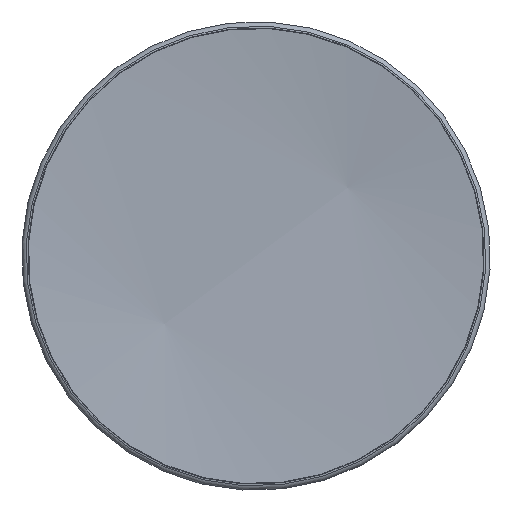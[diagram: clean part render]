
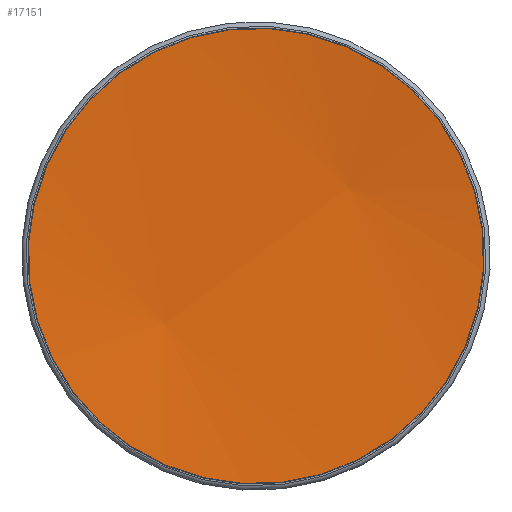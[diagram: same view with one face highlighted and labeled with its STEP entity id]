
A CAD part, front view. The second image highlights one B-rep face of the part: STEP entity #17151.
In plain terms, the highlighted spherical face has radius 600 mm.
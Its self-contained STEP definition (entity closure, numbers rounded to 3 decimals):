
#131=SPHERICAL_SURFACE('',#19390,600.);
#3471=FACE_OUTER_BOUND('',#4575,.T.);
#4575=EDGE_LOOP('',(#15082,#15083));
#6255=CIRCLE('',#19387,77.741);
#6256=CIRCLE('',#19388,77.741);
#7793=VERTEX_POINT('',#34400);
#7794=VERTEX_POINT('',#34401);
#10223=EDGE_CURVE('',#7793,#7794,#6255,.T.);
#10224=EDGE_CURVE('',#7794,#7793,#6256,.T.);
#15082=ORIENTED_EDGE('',*,*,#10223,.T.);
#15083=ORIENTED_EDGE('',*,*,#10224,.T.);
#17151=ADVANCED_FACE('',(#3471),#131,.F.);
#19387=AXIS2_PLACEMENT_3D('',#34402,#24549,#24550);
#19388=AXIS2_PLACEMENT_3D('',#34403,#24551,#24552);
#19390=AXIS2_PLACEMENT_3D('',#34405,#24555,#24556);
#24549=DIRECTION('center_axis',(0.,-1.,0.));
#24550=DIRECTION('ref_axis',(-0.802,0.,-0.598));
#24551=DIRECTION('center_axis',(0.,-1.,0.));
#24552=DIRECTION('ref_axis',(-0.802,0.,-0.598));
#24555=DIRECTION('center_axis',(-0.598,0.,
0.802));
#24556=DIRECTION('ref_axis',(-0.802,0.,-0.598));
#34400=CARTESIAN_POINT('',(-46.462,-240.133,62.329));
#34401=CARTESIAN_POINT('',(46.462,-240.133,-62.329));
#34402=CARTESIAN_POINT('Origin',(0.,-240.133,
0.));
#34403=CARTESIAN_POINT('Origin',(0.,-240.133,
0.));
#34405=CARTESIAN_POINT('Origin',(0.,-835.075,
0.));
